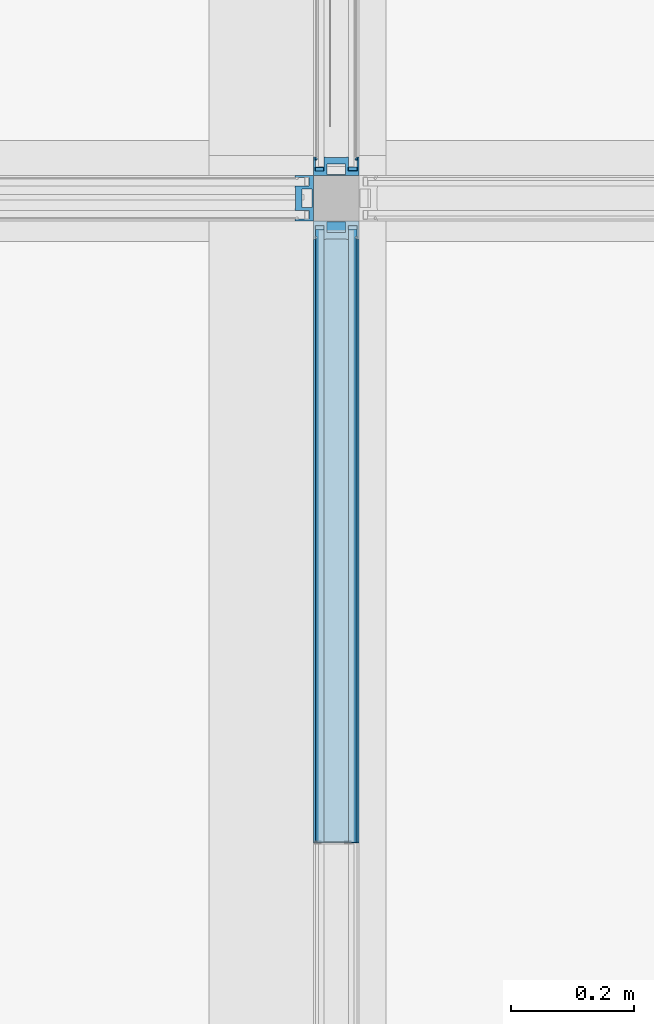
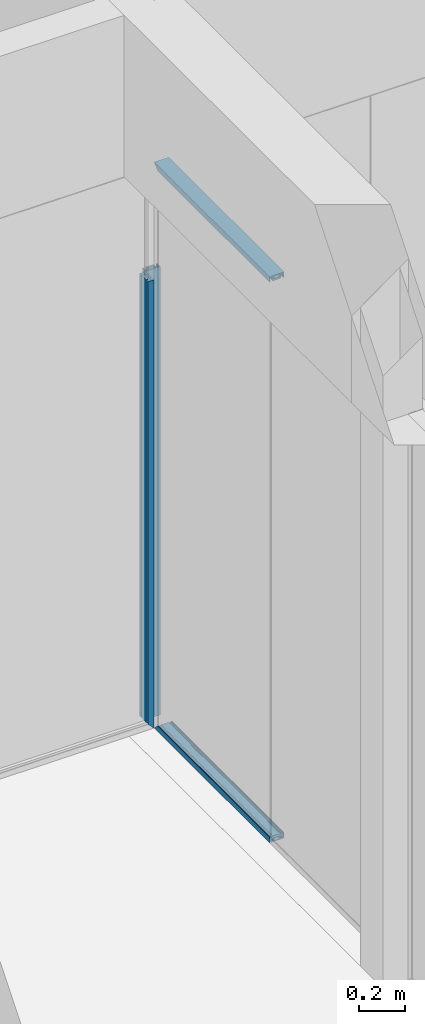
# One storey, part 72 of 387: 7 building element parts, 7 elements without a shape of their own.
"""IFC2X3 building model written with IfcOpenShell, lengths in millimetres."""

from ifc_helpers import new_model, entity, si_unit, converted_unit, derived_unit, money_unit, direction, frame, origin_with_axes, place, context, subcontext, project, spatial, faceted_brep, source, transform, mapped, material, type_object, element, aggregate, save


model = new_model("IFC2X3")

# Units and contexts
model_context = context("Model", 3, precision=0.01, world=origin_with_axes(), true_north=direction((0.0, 1.0)))
body_context = subcontext(model_context, "Body", "Model", "MODEL_VIEW")
ifc_project = project(units=[si_unit("LENGTHUNIT", "METRE", prefix="MILLI"), si_unit("AREAUNIT", "SQUARE_METRE"), si_unit("VOLUMEUNIT", "CUBIC_METRE"), converted_unit("PLANEANGLEUNIT", "DEGREE", entity("IfcPlaneAngleMeasure", 0.0174532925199), si_unit("PLANEANGLEUNIT", "RADIAN"), dimensions=[0, 0, 0, 0, 0, 0, 0]), si_unit("SOLIDANGLEUNIT", "STERADIAN"), money_unit("EUR"), converted_unit("TIMEUNIT", "Year", entity("IfcTimeMeasure", 31556926.0), si_unit("TIMEUNIT", "SECOND"), dimensions=[0, 0, 1, 0, 0, 0, 0]), si_unit("MASSUNIT", "GRAM", prefix="KILO"), si_unit("THERMODYNAMICTEMPERATUREUNIT", "DEGREE_CELSIUS"), si_unit("LUMINOUSINTENSITYUNIT", "LUMEN"), si_unit("ENERGYUNIT", "JOULE", prefix="MEGA"), derived_unit("THERMALCONDUCTANCEUNIT", [(si_unit("POWERUNIT", "WATT"), 1), (si_unit("LENGTHUNIT", "METRE"), -1), (si_unit("THERMODYNAMICTEMPERATUREUNIT", "KELVIN"), -1)]), derived_unit("SPECIFICHEATCAPACITYUNIT", [(si_unit("ENERGYUNIT", "JOULE"), 1), (si_unit("MASSUNIT", "GRAM", prefix="KILO"), -1), (si_unit("THERMODYNAMICTEMPERATUREUNIT", "KELVIN"), -1)]), derived_unit("MASSDENSITYUNIT", [(si_unit("MASSUNIT", "GRAM", prefix="KILO"), 1), (si_unit("VOLUMEUNIT", "CUBIC_METRE"), -1)])], contexts=[model_context])

# Site, building, storey
site_placement = place(None, origin_with_axes())
site = spatial("IfcSite", under=ifc_project, at=site_placement, Name="Puškini 31, Narva", CompositionType="ELEMENT")
building_placement = place(site_placement, origin_with_axes())
building = spatial("IfcBuilding", under=site, at=building_placement, Name="Narva Riigigümnaasium", CompositionType="ELEMENT")
storey_placement = place(building_placement, frame((0.0, 0.0, 2640.0), z_axis=(0.0, 0.0, 1.0), x_axis=(1.0, 0.0, 0.0)))
storey = spatial("IfcBuildingStorey", under=building, at=storey_placement, Name="2.korrus +2.64", CompositionType="ELEMENT", Elevation=2640.0)

# Curtain wall, member, building element part
curtain_wall_type = type_object("IfcCurtainWallType", Name="Curtain Wall Type", PredefinedType="NOTDEFINED")
curtain_wall_1_placement = place(storey_placement, frame((30909.9999988, 173462.997263, -3.04069565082e-05), z_axis=(0.0, 0.0, 1.0), x_axis=(1.0, 0.0, 0.0)))
curtain_wall_1 = element("IfcCurtainWall", 1, at=curtain_wall_1_placement, inside=storey, type_object=curtain_wall_type, Name="G-SKLF-13")
member_type_1 = type_object("IfcMemberType", Name="30 x 37", PredefinedType="MULLION")
member_1_placement = place(curtain_wall_1_placement, frame((1815.99783124, -3.90798504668e-08, 0.0), z_axis=(-4.10434081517e-08, 0.0, 1.0), x_axis=(-1.0, 0.0, -4.10434081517e-08)))
member_1 = element("IfcMember", 2, at=member_1_placement, type_object=member_type_1, Name="G-SKLF-48-raam", ObjectType="MULLION")
aggregate(curtain_wall_1, [member_1])
ifc_material_1 = material(Name="Teras RAL7012")
shared_shape_1 = source(origin_with_axes(), body_context, "Body", "Brep", [
    faceted_brep([(29.5999996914, -17.0000000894, 29.6000009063), (29.5999996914, -17.0000000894, 2400.00003102), (0.0, -17.0000000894, 2400.00003102), (0.0, -17.0000000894, 0.0), (29.5999996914, 17.0000000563, 29.6000009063), (29.5999996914, 17.0000000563, 2400.00003102), (0.0, 17.0000000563, 2400.00003102), (1.9999999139, 15.0000001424, 2400.00003102), (18.7999996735, 15.0000001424, 2400.00003102), (18.7999996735, -15.0000001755, 2400.00003102), (1.9999999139, -15.0000001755, 2400.00003102), (0.0, 17.0000000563, 0.0), (1.9999999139, 15.0000001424, 1.99999999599), (1.9999999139, -15.0000001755, 1.99999999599), (18.7999996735, -15.0000001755, 18.8000004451), (18.7999996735, 15.0000001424, 18.8000004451)], [[[0, 1, 2, 3]], [[4, 5, 1, 0]], [[2, 1, 5, 6], [7, 8, 9, 10]], [[3, 2, 6, 11]], [[3, 11, 4, 0], [12, 13, 14, 15]], [[11, 6, 5, 4]], [[15, 8, 7, 12]], [[14, 9, 8, 15]], [[13, 10, 9, 14]], [[12, 7, 10, 13]]]),
    faceted_brep([(29.5999996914, 17.0000000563, 29.6000009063), (29.5999996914, 17.0000000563, 2400.00003102), (0.0, 17.0, 2400.00003102), (0.0, 17.0, 0.0), (30.0000193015, 17.0, 30.0000205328), (30.0000193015, 17.0, 2400.00003102), (30.0000193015, 20.0, 2400.00003102), (13.8499999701, 20.000000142, 2400.00003102), (7.49999999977, 20.0, 2400.00003102), (7.49999999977, 34.0161444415, 2400.00003102), (13.8499999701, 34.0161444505, 2400.00003102), (24.987414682, 34.0161444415, 2400.00003102), (28.5126239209, 34.0161444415, 2400.00003102), (30.0000193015, 34.0161444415, 2400.00003102), (30.0000193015, 37.0, 2400.00003102), (0.0, 37.0, 2400.00003102), (0.0, 37.0, 0.0), (30.0000193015, 37.0, 30.0000205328), (30.0000193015, 34.0161444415, 30.0000205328), (28.5126239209, 34.0161444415, 28.5126250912), (24.987414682, 34.0161444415, 24.9874157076), (13.8499999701, 34.0161444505, 13.8500005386), (7.49999999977, 34.0161444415, 7.50000030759), (7.49999999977, 20.0, 7.50000030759), (13.8499999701, 20.000000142, 13.8500005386), (30.0000193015, 20.0, 30.0000205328)], [[[0, 1, 2, 3]], [[4, 5, 1, 0]], [[2, 1, 5, 6, 7, 8, 9, 10, 11, 12, 13, 14, 15]], [[3, 2, 15, 16]], [[3, 16, 17, 18, 19, 20, 21, 22, 23, 24, 25, 4, 0]], [[25, 6, 5, 4]], [[24, 7, 6, 25]], [[23, 8, 7, 24]], [[22, 9, 8, 23]], [[21, 10, 9, 22]], [[20, 11, 10, 21]], [[19, 12, 11, 20]], [[18, 13, 12, 19]], [[17, 14, 13, 18]], [[16, 15, 14, 17]]]),
    faceted_brep([(0.0, -37.0, 0.0), (0.0, -37.0, 2400.00003102), (0.0, -17.0, 2400.00003102), (0.0, -17.0, 0.0), (30.0000193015, -37.0, 30.0000205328), (30.0000193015, -37.0, 2400.00003102), (30.0000193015, -34.0161444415, 2400.00003102), (28.5126239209, -34.0161444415, 2400.00003102), (24.987414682, -34.0161444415, 2400.00003102), (13.8499999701, -34.0161445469, 2400.00003102), (7.49999999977, -34.0161444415, 2400.00003102), (7.49999999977, -20.0, 2400.00003102), (13.8499999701, -19.9999997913, 2400.00003102), (30.0000193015, -20.0, 2400.00003102), (30.0000193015, -17.0, 2400.00003102), (29.5999996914, -17.0000000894, 2400.00003102), (29.5999996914, -17.0000000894, 29.6000009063), (30.0000193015, -17.0, 30.0000205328), (30.0000193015, -20.0, 30.0000205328), (13.8499999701, -19.9999997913, 13.8500005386), (7.49999999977, -20.0, 7.50000030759), (7.49999999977, -34.0161444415, 7.50000030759), (13.8499999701, -34.0161445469, 13.8500005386), (24.987414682, -34.0161444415, 24.9874157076), (28.5126239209, -34.0161444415, 28.5126250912), (30.0000193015, -34.0161444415, 30.0000205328)], [[[0, 1, 2, 3]], [[4, 5, 1, 0]], [[2, 1, 5, 6, 7, 8, 9, 10, 11, 12, 13, 14, 15]], [[3, 2, 15, 16]], [[3, 16, 17, 18, 19, 20, 21, 22, 23, 24, 25, 4, 0]], [[25, 6, 5, 4]], [[24, 7, 6, 25]], [[23, 8, 7, 24]], [[22, 9, 8, 23]], [[21, 10, 9, 22]], [[20, 11, 10, 21]], [[19, 12, 11, 20]], [[18, 13, 12, 19]], [[17, 14, 13, 18]], [[16, 15, 14, 17]]]),
])
building_element_part_1_placement = place(member_1_placement, origin_with_axes())
building_element_part_1 = element("IfcBuildingElementPart", 3, at=building_element_part_1_placement, material=ifc_material_1, Name="Teras RAL7012", context=body_context, shape_type="MappedRepresentation", body=[
    mapped(shared_shape_1, transform((0.0, 0.0, 0.0))),
])
aggregate(member_1, [building_element_part_1])

# Curtain wall, member, building element parts
curtain_wall_2_placement = place(storey_placement, frame((32763.0000013, 173975.000001, -1.33722362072e-05), z_axis=(0.0, 0.0, 1.0), x_axis=(1.0, 0.0, 0.0)))
curtain_wall_2 = element("IfcCurtainWall", 4, at=curtain_wall_2_placement, inside=storey, type_object=curtain_wall_type, Name="G-SKLF-14")
member_2_placement = place(curtain_wall_2_placement, frame((-1.24700250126e-08, -475.0, 0.0), z_axis=(0.0, 0.0, 1.0), x_axis=(0.0, -1.0, 0.0)))
member_2 = element("IfcMember", 5, at=member_2_placement, type_object=member_type_1, Name="G-SKLF-14-raam", ObjectType="MULLION")
aggregate(curtain_wall_2, [member_2])
ifc_material_2 = material(Name="Klaasvill")
shared_shape_2 = source(origin_with_axes(), body_context, "Body", "Brep", [
    faceted_brep([(7.49999990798, 20.000000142, 0.0), (13.8499999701, 20.000000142, 0.0), (13.8499999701, 20.000000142, 2400.00001337), (7.49999990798, 20.000000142, 2400.00001337), (7.49999990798, 34.0161444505, 0.0), (13.8499999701, 34.0161444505, 0.0), (13.8499999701, 34.0161444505, 2400.00001337), (7.49999990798, 34.0161444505, 2400.00001337)], [[[0, 1, 2, 3]], [[0, 4, 5, 1]], [[1, 5, 6, 2]], [[3, 2, 6, 7]], [[4, 0, 3, 7]], [[5, 4, 7, 6]]]),
    faceted_brep([(24.987414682, 34.0161444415, 0.0), (25.004489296, 32.0307503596, 0.0), (25.004489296, 32.0307503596, 2400.00001337), (24.987414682, 34.0161444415, 2400.00001337), (28.5126239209, 34.0161444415, 0.0), (28.7655837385, 33.0385325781, 0.0), (28.4955493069, 32.0307503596, 0.0), (27.75780152, 31.2930025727, 0.0), (26.7500193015, 31.0229681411, 0.0), (25.742237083, 31.2930025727, 0.0), (25.742237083, 31.2930025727, 2400.00001337), (26.7500193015, 31.0229681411, 2400.00001337), (27.75780152, 31.2930025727, 2400.00001337), (28.4955493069, 32.0307503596, 2400.00001337), (28.7655837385, 33.0385325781, 2400.00001337), (28.5126239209, 34.0161444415, 2400.00001337)], [[[0, 1, 2, 3]], [[0, 4, 5, 6, 7, 8, 9, 1]], [[1, 9, 10, 2]], [[3, 2, 10, 11, 12, 13, 14, 15]], [[4, 0, 3, 15]], [[5, 4, 15, 14]], [[6, 5, 14, 13]], [[7, 6, 13, 12]], [[8, 7, 12, 11]], [[9, 8, 11, 10]]]),
    faceted_brep([(7.49999990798, -19.9999997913, 0.0), (7.49999990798, -34.0161445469, 0.0), (7.49999990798, -34.0161445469, 2400.00001337), (7.49999990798, -19.9999997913, 2400.00001337), (13.8499999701, -19.9999997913, 0.0), (13.8499999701, -34.0161445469, 0.0), (13.8499999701, -34.0161445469, 2400.00001337), (13.8499999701, -19.9999997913, 2400.00001337)], [[[0, 1, 2, 3]], [[0, 4, 5, 1]], [[1, 5, 6, 2]], [[3, 2, 6, 7]], [[4, 0, 3, 7]], [[5, 4, 7, 6]]]),
    faceted_brep([(25.004489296, -32.0307503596, 0.0), (24.987414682, -34.0161444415, 0.0), (24.987414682, -34.0161444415, 2400.00001337), (25.004489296, -32.0307503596, 2400.00001337), (25.742237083, -31.2930025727, 0.0), (26.7500193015, -31.0229681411, 0.0), (27.75780152, -31.2930025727, 0.0), (28.4955493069, -32.0307503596, 0.0), (28.7655837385, -33.0385325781, 0.0), (28.5126239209, -34.0161444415, 0.0), (28.5126239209, -34.0161444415, 2400.00001337), (28.7655837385, -33.0385325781, 2400.00001337), (28.4955493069, -32.0307503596, 2400.00001337), (27.75780152, -31.2930025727, 2400.00001337), (26.7500193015, -31.0229681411, 2400.00001337), (25.742237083, -31.2930025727, 2400.00001337)], [[[0, 1, 2, 3]], [[0, 4, 5, 6, 7, 8, 9, 1]], [[1, 9, 10, 2]], [[3, 2, 10, 11, 12, 13, 14, 15]], [[4, 0, 3, 15]], [[5, 4, 15, 14]], [[6, 5, 14, 13]], [[7, 6, 13, 12]], [[8, 7, 12, 11]], [[9, 8, 11, 10]]]),
])
building_element_part_2_placement = place(member_2_placement, origin_with_axes())
building_element_part_2 = element("IfcBuildingElementPart", 6, at=building_element_part_2_placement, material=ifc_material_2, Name="Klaasvill", context=body_context, shape_type="MappedRepresentation", body=[
    mapped(shared_shape_2, transform((0.0, 0.0, 0.0), x_axis=(-1.0, 0.0, 0.0), y_axis=(0.0, -1.0, 0.0), z_axis=(0.0, 0.0, 1.0))),
])
shared_shape_3 = source(origin_with_axes(), body_context, "Body", "Brep", [
    faceted_brep([(0.0, -17.0000000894, 0.0), (29.5999996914, -17.0000000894, 0.0), (29.5999996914, -17.0000000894, 2400.00001337), (0.0, -17.0000000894, 2400.00001337), (0.0, 17.0000000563, 0.0), (29.5999996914, 17.0000000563, 0.0), (1.9999999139, 15.0000001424, 0.0), (1.9999999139, -15.0000001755, 0.0), (18.7999996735, -15.0000001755, 0.0), (18.7999996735, 15.0000001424, 0.0), (29.5999996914, 17.0000000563, 2400.00001337), (0.0, 17.0000000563, 2400.00001337), (1.9999999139, 15.0000001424, 2400.00001337), (18.7999996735, 15.0000001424, 2400.00001337), (18.7999996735, -15.0000001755, 2400.00001337), (1.9999999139, -15.0000001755, 2400.00001337)], [[[0, 1, 2, 3]], [[0, 4, 5, 1], [6, 7, 8, 9]], [[1, 5, 10, 2]], [[3, 2, 10, 11], [12, 13, 14, 15]], [[4, 0, 3, 11]], [[5, 4, 11, 10]], [[7, 6, 12, 15]], [[8, 7, 15, 14]], [[9, 8, 14, 13]], [[6, 9, 13, 12]]]),
    faceted_brep([(0.0, 17.0, 0.0), (29.5999996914, 17.0000000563, 0.0), (29.5999996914, 17.0000000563, 2400.00001337), (0.0, 17.0, 2400.00001337), (0.0, 37.0, 0.0), (30.0000193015, 37.0, 0.0), (30.0000193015, 34.0161444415, 0.0), (28.5126239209, 34.0161444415, 0.0), (24.987414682, 34.0161444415, 0.0), (13.8499999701, 34.0161444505, 0.0), (7.49999999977, 34.0161444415, 0.0), (7.49999999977, 20.0, 0.0), (13.8499999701, 20.000000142, 0.0), (30.0000193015, 20.0, 0.0), (30.0000193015, 17.0, 0.0), (30.0000193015, 17.0, 2400.00001337), (30.0000193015, 20.0, 2400.00001337), (13.8499999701, 20.000000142, 2400.00001337), (7.49999999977, 20.0, 2400.00001337), (7.49999999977, 34.0161444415, 2400.00001337), (13.8499999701, 34.0161444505, 2400.00001337), (24.987414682, 34.0161444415, 2400.00001337), (28.5126239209, 34.0161444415, 2400.00001337), (30.0000193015, 34.0161444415, 2400.00001337), (30.0000193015, 37.0, 2400.00001337), (0.0, 37.0, 2400.00001337)], [[[0, 1, 2, 3]], [[0, 4, 5, 6, 7, 8, 9, 10, 11, 12, 13, 14, 1]], [[1, 14, 15, 2]], [[3, 2, 15, 16, 17, 18, 19, 20, 21, 22, 23, 24, 25]], [[4, 0, 3, 25]], [[5, 4, 25, 24]], [[6, 5, 24, 23]], [[7, 6, 23, 22]], [[8, 7, 22, 21]], [[9, 8, 21, 20]], [[10, 9, 20, 19]], [[11, 10, 19, 18]], [[12, 11, 18, 17]], [[13, 12, 17, 16]], [[14, 13, 16, 15]]]),
    faceted_brep([(0.0, -17.0, 0.0), (0.0, -37.0, 0.0), (0.0, -37.0, 2400.00001337), (0.0, -17.0, 2400.00001337), (29.5999996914, -17.0000000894, 0.0), (30.0000193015, -17.0, 0.0), (30.0000193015, -20.0, 0.0), (13.8499999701, -19.9999997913, 0.0), (7.49999999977, -20.0, 0.0), (7.49999999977, -34.0161444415, 0.0), (13.8499999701, -34.0161445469, 0.0), (24.987414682, -34.0161444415, 0.0), (28.5126239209, -34.0161444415, 0.0), (30.0000193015, -34.0161444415, 0.0), (30.0000193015, -37.0, 0.0), (30.0000193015, -37.0, 2400.00001337), (30.0000193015, -34.0161444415, 2400.00001337), (28.5126239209, -34.0161444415, 2400.00001337), (24.987414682, -34.0161444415, 2400.00001337), (13.8499999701, -34.0161445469, 2400.00001337), (7.49999999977, -34.0161444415, 2400.00001337), (7.49999999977, -20.0, 2400.00001337), (13.8499999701, -19.9999997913, 2400.00001337), (30.0000193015, -20.0, 2400.00001337), (30.0000193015, -17.0, 2400.00001337), (29.5999996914, -17.0000000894, 2400.00001337)], [[[0, 1, 2, 3]], [[0, 4, 5, 6, 7, 8, 9, 10, 11, 12, 13, 14, 1]], [[1, 14, 15, 2]], [[3, 2, 15, 16, 17, 18, 19, 20, 21, 22, 23, 24, 25]], [[4, 0, 3, 25]], [[5, 4, 25, 24]], [[6, 5, 24, 23]], [[7, 6, 23, 22]], [[8, 7, 22, 21]], [[9, 8, 21, 20]], [[10, 9, 20, 19]], [[11, 10, 19, 18]], [[12, 11, 18, 17]], [[13, 12, 17, 16]], [[14, 13, 16, 15]]]),
])
building_element_part_3_placement = place(member_2_placement, origin_with_axes())
building_element_part_3 = element("IfcBuildingElementPart", 7, at=building_element_part_3_placement, material=ifc_material_1, Name="Teras RAL7012", context=body_context, shape_type="MappedRepresentation", body=[
    mapped(shared_shape_3, transform((0.0, 0.0, 0.0), x_axis=(-1.0, 0.0, 0.0), y_axis=(0.0, -1.0, 0.0), z_axis=(0.0, 0.0, 1.0))),
])
aggregate(member_2, [building_element_part_2, building_element_part_3])

# Curtain wall, members, building element parts
curtain_wall_3_placement = place(storey_placement, frame((32758.0000014, 172919.500026, -4.39056688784e-05), z_axis=(0.0, 0.0, 1.0), x_axis=(1.0, 0.0, 0.0)))
curtain_wall_3 = element("IfcCurtainWall", 8, at=curtain_wall_3_placement, inside=storey, type_object=curtain_wall_type, Name="G-SKLF-28")
member_type_2 = type_object("IfcMemberType", Name="Boundary Frame 30 x 42", PredefinedType="MULLION")
member_3_placement = place(curtain_wall_3_placement, frame((1.27329258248e-08, 506.5, 3029.99999672), z_axis=(0.0, -1.0, 0.0), x_axis=(0.0, 0.0, -1.0)))
member_3 = element("IfcMember", 9, at=member_3_placement, type_object=member_type_2, Name="G-SKLF-06-raam", ObjectType="MULLION")
shared_shape_4 = source(origin_with_axes(), body_context, "Body", "Brep", [
    faceted_brep([(-13.8499999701, 15.000000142, 13.8499999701), (-7.49999990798, 15.000000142, 7.49999990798), (-7.49999990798, 15.000000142, 1012.62499678), (-13.8499999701, 15.000000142, 1012.30749405), (-13.8499999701, 29.0161444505, 13.8499999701), (-7.49999990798, 29.0161444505, 7.49999990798), (-7.49999990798, 29.0161444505, 1012.62499678), (-13.8499999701, 29.0161444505, 1012.30749405)], [[[0, 1, 2, 3]], [[1, 0, 4, 5]], [[1, 5, 6, 2]], [[2, 6, 7, 3]], [[4, 0, 3, 7]], [[5, 4, 7, 6]]]),
    faceted_brep([(-25.004489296, 27.0307503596, 25.004489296), (-24.987414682, 29.0161444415, 24.987414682), (-24.987414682, 29.0161444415, 1011.75061852), (-25.004489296, 27.0307503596, 1011.74976478), (-25.742237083, 26.2930025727, 25.742237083), (-26.7500193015, 26.0229681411, 26.7500193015), (-27.75780152, 26.2930025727, 27.75780152), (-28.4955493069, 27.0307503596, 28.4955493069), (-28.7655837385, 28.0385325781, 28.7655837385), (-28.5126239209, 29.0161444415, 28.5126239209), (-28.5126239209, 29.0161444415, 1011.57435654), (-28.7655837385, 28.0385325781, 1011.56170844), (-28.4955493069, 27.0307503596, 1011.57521028), (-27.75780152, 26.2930025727, 1011.61209799), (-26.7500193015, 26.0229681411, 1011.66248753), (-25.742237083, 26.2930025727, 1011.71287708)], [[[0, 1, 2, 3]], [[1, 0, 4, 5, 6, 7, 8, 9]], [[1, 9, 10, 2]], [[2, 10, 11, 12, 13, 14, 15, 3]], [[4, 0, 3, 15]], [[5, 4, 15, 14]], [[6, 5, 14, 13]], [[7, 6, 13, 12]], [[8, 7, 12, 11]], [[9, 8, 11, 10]]]),
    faceted_brep([(-7.49999990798, -39.0161445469, 7.49999990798), (-7.49999990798, -24.9999997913, 7.49999990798), (-7.49999990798, -24.9999997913, 1012.62499678), (-7.49999990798, -39.0161445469, 1012.62499678), (-13.8499999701, -39.0161445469, 13.8499999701), (-13.8499999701, -24.9999997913, 13.8499999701), (-13.8499999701, -24.9999997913, 1012.30749405), (-13.8499999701, -39.0161445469, 1012.30749405)], [[[0, 1, 2, 3]], [[1, 0, 4, 5]], [[1, 5, 6, 2]], [[2, 6, 7, 3]], [[4, 0, 3, 7]], [[5, 4, 7, 6]]]),
    faceted_brep([(-24.987414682, -39.0161444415, 24.987414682), (-25.004489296, -37.0307503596, 25.004489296), (-25.004489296, -37.0307503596, 1011.74976478), (-24.987414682, -39.0161444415, 1011.75061852), (-28.5126239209, -39.0161444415, 28.5126239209), (-28.7655837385, -38.0385325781, 28.7655837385), (-28.4955493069, -37.0307503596, 28.4955493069), (-27.75780152, -36.2930025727, 27.75780152), (-26.7500193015, -36.0229681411, 26.7500193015), (-25.742237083, -36.2930025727, 25.742237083), (-25.742237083, -36.2930025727, 1011.71287708), (-26.7500193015, -36.0229681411, 1011.66248753), (-27.75780152, -36.2930025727, 1011.61209799), (-28.4955493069, -37.0307503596, 1011.57521028), (-28.7655837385, -38.0385325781, 1011.56170844), (-28.5126239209, -39.0161444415, 1011.57435654)], [[[0, 1, 2, 3]], [[1, 0, 4, 5, 6, 7, 8, 9]], [[1, 9, 10, 2]], [[2, 10, 11, 12, 13, 14, 15, 3]], [[4, 0, 3, 15]], [[5, 4, 15, 14]], [[6, 5, 14, 13]], [[7, 6, 13, 12]], [[8, 7, 12, 11]], [[9, 8, 11, 10]]]),
])
building_element_part_4_placement = place(member_3_placement, origin_with_axes())
building_element_part_4 = element("IfcBuildingElementPart", 10, at=building_element_part_4_placement, material=ifc_material_2, Name="Klaasvill", context=body_context, shape_type="MappedRepresentation", body=[
    mapped(shared_shape_4, transform((0.0, 0.0, 0.0), x_axis=(-1.0, 0.0, 0.0), y_axis=(0.0, -1.0, 0.0), z_axis=(0.0, 0.0, 1.0))),
])
shared_shape_5 = source(origin_with_axes(), body_context, "Body", "Brep", [
    faceted_brep([(-29.5999996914, -22.0000000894, 29.5999996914), (0.0, -22.0000000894, 0.0), (0.0, -22.0000000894, 1013.0), (-29.5999996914, -22.0000000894, 1011.51998729), (-29.5999996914, 12.0000000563, 29.5999996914), (0.0, 12.0000000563, 0.0), (-1.9999999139, 10.0000001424, 1.9999999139), (-18.7999996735, 10.0000001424, 18.7999996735), (-18.7999996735, -20.0000001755, 18.7999996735), (-1.9999999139, -20.0000001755, 1.9999999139), (0.0, 12.0000000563, 1013.0), (-29.5999996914, 12.0000000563, 1011.51998729), (-1.9999999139, 10.0000001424, 1012.89999914), (-1.9999999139, -20.0000001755, 1012.89999914), (-18.7999996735, -20.0000001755, 1012.05999193), (-18.7999996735, 10.0000001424, 1012.05999193)], [[[0, 1, 2, 3]], [[1, 0, 4, 5], [6, 7, 8, 9]], [[1, 5, 10, 2]], [[2, 10, 11, 3], [12, 13, 14, 15]], [[4, 0, 3, 11]], [[5, 4, 11, 10]], [[7, 6, 12, 15]], [[8, 7, 15, 14]], [[9, 8, 14, 13]], [[6, 9, 13, 12]]]),
    faceted_brep([(-29.5999996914, 12.0000000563, 29.5999996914), (0.0, 12.0, 0.0), (0.0, 12.0, 1013.0), (-29.5999996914, 12.0000000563, 1011.51998729), (-30.0000193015, 12.0, 30.0000193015), (-30.0000193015, 15.0, 30.0000193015), (-13.8499999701, 15.000000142, 13.8499999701), (-7.49999999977, 15.0, 7.49999999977), (-7.49999999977, 29.0161444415, 7.49999999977), (-13.8499999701, 29.0161444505, 13.8499999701), (-24.987414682, 29.0161444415, 24.987414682), (-28.5126239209, 29.0161444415, 28.5126239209), (-30.0000193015, 29.0161444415, 30.0000193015), (-30.0000193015, 32.0, 30.0000193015), (0.0, 32.0, 0.0), (0.0, 32.0, 1013.0), (-30.0000193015, 32.0, 1011.49998613), (-30.0000193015, 29.0161444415, 1011.49998613), (-28.5126239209, 29.0161444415, 1011.57435654), (-24.987414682, 29.0161444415, 1011.75061852), (-13.8499999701, 29.0161444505, 1012.30749405), (-7.49999999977, 29.0161444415, 1012.62499677), (-7.49999999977, 15.0, 1012.62499677), (-13.8499999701, 15.000000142, 1012.30749405), (-30.0000193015, 15.0, 1011.49998613), (-30.0000193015, 12.0, 1011.49998613)], [[[0, 1, 2, 3]], [[1, 0, 4, 5, 6, 7, 8, 9, 10, 11, 12, 13, 14]], [[1, 14, 15, 2]], [[2, 15, 16, 17, 18, 19, 20, 21, 22, 23, 24, 25, 3]], [[4, 0, 3, 25]], [[5, 4, 25, 24]], [[6, 5, 24, 23]], [[7, 6, 23, 22]], [[8, 7, 22, 21]], [[9, 8, 21, 20]], [[10, 9, 20, 19]], [[11, 10, 19, 18]], [[12, 11, 18, 17]], [[13, 12, 17, 16]], [[14, 13, 16, 15]]]),
    faceted_brep([(0.0, -42.0, 0.0), (0.0, -22.0, 0.0), (0.0, -22.0, 1013.0), (0.0, -42.0, 1013.0), (-30.0000193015, -42.0, 30.0000193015), (-30.0000193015, -39.0161444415, 30.0000193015), (-28.5126239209, -39.0161444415, 28.5126239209), (-24.987414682, -39.0161444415, 24.987414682), (-13.8499999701, -39.0161445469, 13.8499999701), (-7.49999999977, -39.0161444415, 7.49999999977), (-7.49999999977, -25.0, 7.49999999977), (-13.8499999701, -24.9999997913, 13.8499999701), (-30.0000193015, -25.0, 30.0000193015), (-30.0000193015, -22.0, 30.0000193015), (-29.5999996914, -22.0000000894, 29.5999996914), (-29.5999996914, -22.0000000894, 1011.51998729), (-30.0000193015, -22.0, 1011.49998613), (-30.0000193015, -25.0, 1011.49998613), (-13.8499999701, -24.9999997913, 1012.30749405), (-7.49999999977, -25.0, 1012.62499677), (-7.49999999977, -39.0161444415, 1012.62499677), (-13.8499999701, -39.0161445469, 1012.30749405), (-24.987414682, -39.0161444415, 1011.75061852), (-28.5126239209, -39.0161444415, 1011.57435654), (-30.0000193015, -39.0161444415, 1011.49998613), (-30.0000193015, -42.0, 1011.49998613)], [[[0, 1, 2, 3]], [[1, 0, 4, 5, 6, 7, 8, 9, 10, 11, 12, 13, 14]], [[1, 14, 15, 2]], [[2, 15, 16, 17, 18, 19, 20, 21, 22, 23, 24, 25, 3]], [[4, 0, 3, 25]], [[5, 4, 25, 24]], [[6, 5, 24, 23]], [[7, 6, 23, 22]], [[8, 7, 22, 21]], [[9, 8, 21, 20]], [[10, 9, 20, 19]], [[11, 10, 19, 18]], [[12, 11, 18, 17]], [[13, 12, 17, 16]], [[14, 13, 16, 15]]]),
])
building_element_part_5_placement = place(member_3_placement, origin_with_axes())
building_element_part_5 = element("IfcBuildingElementPart", 11, at=building_element_part_5_placement, material=ifc_material_1, Name="Teras RAL7012", context=body_context, shape_type="MappedRepresentation", body=[
    mapped(shared_shape_5, transform((0.0, 0.0, 0.0), x_axis=(-1.0, 0.0, 0.0), y_axis=(0.0, -1.0, 0.0), z_axis=(0.0, 0.0, 1.0))),
])
aggregate(member_3, [building_element_part_4, building_element_part_5])
member_4_placement = place(curtain_wall_3_placement, frame((-1.27329258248e-08, -506.5, 0.0), z_axis=(0.0, 1.0, 0.0), x_axis=(0.0, 0.0, 1.0)))
member_4 = element("IfcMember", 12, at=member_4_placement, type_object=member_type_2, Name="G-SKLF-04-raam", ObjectType="MULLION")
aggregate(curtain_wall_3, [member_3, member_4])
shared_shape_6 = source(origin_with_axes(), body_context, "Body", "Brep", [
    faceted_brep([(-13.8499999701, 15.000000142, 0.692505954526), (-7.49999990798, 15.000000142, 0.37500322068), (-7.49999990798, 15.000000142, 1005.50000009), (-13.8499999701, 15.000000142, 999.15000003), (-13.8499999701, 29.0161444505, 0.692505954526), (-7.49999990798, 29.0161444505, 0.37500322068), (-7.49999990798, 29.0161444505, 1005.50000009), (-13.8499999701, 29.0161444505, 999.15000003)], [[[0, 1, 2, 3]], [[1, 0, 4, 5]], [[1, 5, 6, 2]], [[2, 6, 7, 3]], [[4, 0, 3, 7]], [[5, 4, 7, 6]]]),
    faceted_brep([(-25.004489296, 27.0307503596, 1.25023521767), (-24.987414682, 29.0161444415, 1.24938147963), (-24.987414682, 29.0161444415, 988.012585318), (-25.004489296, 27.0307503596, 987.995510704), (-25.742237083, 26.2930025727, 1.28712292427), (-26.7500193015, 26.0229681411, 1.33751246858), (-27.75780152, 26.2930025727, 1.38790201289), (-28.4955493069, 27.0307503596, 1.4247897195), (-28.7655837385, 28.0385325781, 1.43829155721), (-28.5126239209, 29.0161444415, 1.42564345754), (-28.5126239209, 29.0161444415, 984.487376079), (-28.7655837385, 28.0385325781, 984.234416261), (-28.4955493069, 27.0307503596, 984.504450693), (-27.75780152, 26.2930025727, 985.24219848), (-26.7500193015, 26.0229681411, 986.249980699), (-25.742237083, 26.2930025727, 987.257762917)], [[[0, 1, 2, 3]], [[1, 0, 4, 5, 6, 7, 8, 9]], [[1, 9, 10, 2]], [[2, 10, 11, 12, 13, 14, 15, 3]], [[4, 0, 3, 15]], [[5, 4, 15, 14]], [[6, 5, 14, 13]], [[7, 6, 13, 12]], [[8, 7, 12, 11]], [[9, 8, 11, 10]]]),
    faceted_brep([(-7.49999990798, -39.0161445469, 0.37500322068), (-7.49999990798, -24.9999997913, 0.37500322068), (-7.49999990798, -24.9999997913, 1005.50000009), (-7.49999990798, -39.0161445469, 1005.50000009), (-13.8499999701, -39.0161445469, 0.692505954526), (-13.8499999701, -24.9999997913, 0.692505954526), (-13.8499999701, -24.9999997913, 999.15000003), (-13.8499999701, -39.0161445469, 999.15000003)], [[[0, 1, 2, 3]], [[1, 0, 4, 5]], [[1, 5, 6, 2]], [[2, 6, 7, 3]], [[4, 0, 3, 7]], [[5, 4, 7, 6]]]),
    faceted_brep([(-24.987414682, -39.0161444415, 1.24938147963), (-25.004489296, -37.0307503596, 1.25023521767), (-25.004489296, -37.0307503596, 987.995510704), (-24.987414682, -39.0161444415, 988.012585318), (-28.5126239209, -39.0161444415, 1.42564345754), (-28.7655837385, -38.0385325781, 1.43829155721), (-28.4955493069, -37.0307503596, 1.4247897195), (-27.75780152, -36.2930025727, 1.38790201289), (-26.7500193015, -36.0229681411, 1.33751246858), (-25.742237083, -36.2930025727, 1.28712292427), (-25.742237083, -36.2930025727, 987.257762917), (-26.7500193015, -36.0229681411, 986.249980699), (-27.75780152, -36.2930025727, 985.24219848), (-28.4955493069, -37.0307503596, 984.504450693), (-28.7655837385, -38.0385325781, 984.234416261), (-28.5126239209, -39.0161444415, 984.487376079)], [[[0, 1, 2, 3]], [[1, 0, 4, 5, 6, 7, 8, 9]], [[1, 9, 10, 2]], [[2, 10, 11, 12, 13, 14, 15, 3]], [[4, 0, 3, 15]], [[5, 4, 15, 14]], [[6, 5, 14, 13]], [[7, 6, 13, 12]], [[8, 7, 12, 11]], [[9, 8, 11, 10]]]),
])
building_element_part_6_placement = place(member_4_placement, origin_with_axes())
building_element_part_6 = element("IfcBuildingElementPart", 13, at=building_element_part_6_placement, material=ifc_material_2, Name="Klaasvill", context=body_context, shape_type="MappedRepresentation", body=[
    mapped(shared_shape_6, transform((0.0, 0.0, 0.0), x_axis=(-1.0, 0.0, 0.0), y_axis=(0.0, -1.0, 0.0), z_axis=(0.0, 0.0, 1.0))),
])
shared_shape_7 = source(origin_with_axes(), body_context, "Body", "Brep", [
    faceted_brep([(-29.5999996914, -22.0000000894, 1.48001271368), (0.0, -22.0000000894, 0.0), (0.0, -22.0000000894, 1013.0), (-29.5999996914, -22.0000000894, 983.400000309), (-29.5999996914, 12.0000000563, 1.48001271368), (0.0, 12.0000000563, 0.0), (-1.9999999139, 10.0000001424, 0.10000085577), (-18.7999996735, 10.0000001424, 0.940008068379), (-18.7999996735, -20.0000001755, 0.940008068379), (-1.9999999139, -20.0000001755, 0.10000085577), (0.0, 12.0000000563, 1013.0), (-29.5999996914, 12.0000000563, 983.400000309), (-1.9999999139, 10.0000001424, 1011.00000009), (-1.9999999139, -20.0000001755, 1011.00000009), (-18.7999996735, -20.0000001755, 994.200000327), (-18.7999996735, 10.0000001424, 994.200000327)], [[[0, 1, 2, 3]], [[1, 0, 4, 5], [6, 7, 8, 9]], [[1, 5, 10, 2]], [[2, 10, 11, 3], [12, 13, 14, 15]], [[4, 0, 3, 11]], [[5, 4, 11, 10]], [[7, 6, 12, 15]], [[8, 7, 15, 14]], [[9, 8, 14, 13]], [[6, 9, 13, 12]]]),
    faceted_brep([(-29.5999996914, 12.0000000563, 1.48001271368), (0.0, 12.0, 0.0), (0.0, 12.0, 1013.0), (-29.5999996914, 12.0000000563, 983.400000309), (-30.0000193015, 12.0, 1.50001386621), (-30.0000193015, 15.0, 1.50001386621), (-13.8499999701, 15.000000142, 0.692505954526), (-7.49999999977, 15.0, 0.375003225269), (-7.49999999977, 29.0161444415, 0.375003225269), (-13.8499999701, 29.0161444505, 0.692505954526), (-24.987414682, 29.0161444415, 1.24938147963), (-28.5126239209, 29.0161444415, 1.42564345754), (-30.0000193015, 29.0161444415, 1.50001386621), (-30.0000193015, 32.0, 1.50001386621), (0.0, 32.0, 0.0), (0.0, 32.0, 1013.0), (-30.0000193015, 32.0, 982.999980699), (-30.0000193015, 29.0161444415, 982.999980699), (-28.5126239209, 29.0161444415, 984.487376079), (-24.987414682, 29.0161444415, 988.012585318), (-13.8499999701, 29.0161444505, 999.15000003), (-7.49999999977, 29.0161444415, 1005.5), (-7.49999999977, 15.0, 1005.5), (-13.8499999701, 15.000000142, 999.15000003), (-30.0000193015, 15.0, 982.999980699), (-30.0000193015, 12.0, 982.999980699)], [[[0, 1, 2, 3]], [[1, 0, 4, 5, 6, 7, 8, 9, 10, 11, 12, 13, 14]], [[1, 14, 15, 2]], [[2, 15, 16, 17, 18, 19, 20, 21, 22, 23, 24, 25, 3]], [[4, 0, 3, 25]], [[5, 4, 25, 24]], [[6, 5, 24, 23]], [[7, 6, 23, 22]], [[8, 7, 22, 21]], [[9, 8, 21, 20]], [[10, 9, 20, 19]], [[11, 10, 19, 18]], [[12, 11, 18, 17]], [[13, 12, 17, 16]], [[14, 13, 16, 15]]]),
    faceted_brep([(0.0, -42.0, 0.0), (0.0, -22.0, 0.0), (0.0, -22.0, 1013.0), (0.0, -42.0, 1013.0), (-30.0000193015, -42.0, 1.50001386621), (-30.0000193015, -39.0161444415, 1.50001386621), (-28.5126239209, -39.0161444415, 1.42564345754), (-24.987414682, -39.0161444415, 1.24938147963), (-13.8499999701, -39.0161445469, 0.692505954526), (-7.49999999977, -39.0161444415, 0.375003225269), (-7.49999999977, -25.0, 0.375003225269), (-13.8499999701, -24.9999997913, 0.692505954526), (-30.0000193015, -25.0, 1.50001386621), (-30.0000193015, -22.0, 1.50001386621), (-29.5999996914, -22.0000000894, 1.48001271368), (-29.5999996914, -22.0000000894, 983.400000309), (-30.0000193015, -22.0, 982.999980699), (-30.0000193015, -25.0, 982.999980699), (-13.8499999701, -24.9999997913, 999.15000003), (-7.49999999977, -25.0, 1005.5), (-7.49999999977, -39.0161444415, 1005.5), (-13.8499999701, -39.0161445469, 999.15000003), (-24.987414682, -39.0161444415, 988.012585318), (-28.5126239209, -39.0161444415, 984.487376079), (-30.0000193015, -39.0161444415, 982.999980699), (-30.0000193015, -42.0, 982.999980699)], [[[0, 1, 2, 3]], [[1, 0, 4, 5, 6, 7, 8, 9, 10, 11, 12, 13, 14]], [[1, 14, 15, 2]], [[2, 15, 16, 17, 18, 19, 20, 21, 22, 23, 24, 25, 3]], [[4, 0, 3, 25]], [[5, 4, 25, 24]], [[6, 5, 24, 23]], [[7, 6, 23, 22]], [[8, 7, 22, 21]], [[9, 8, 21, 20]], [[10, 9, 20, 19]], [[11, 10, 19, 18]], [[12, 11, 18, 17]], [[13, 12, 17, 16]], [[14, 13, 16, 15]]]),
])
building_element_part_7_placement = place(member_4_placement, origin_with_axes())
building_element_part_7 = element("IfcBuildingElementPart", 14, at=building_element_part_7_placement, material=ifc_material_1, Name="Teras RAL7012", context=body_context, shape_type="MappedRepresentation", body=[
    mapped(shared_shape_7, transform((0.0, 0.0, 0.0), x_axis=(-1.0, 0.0, 0.0), y_axis=(0.0, -1.0, 0.0), z_axis=(0.0, 0.0, 1.0))),
])
aggregate(member_4, [building_element_part_6, building_element_part_7])

save(model, "model.ifc")
